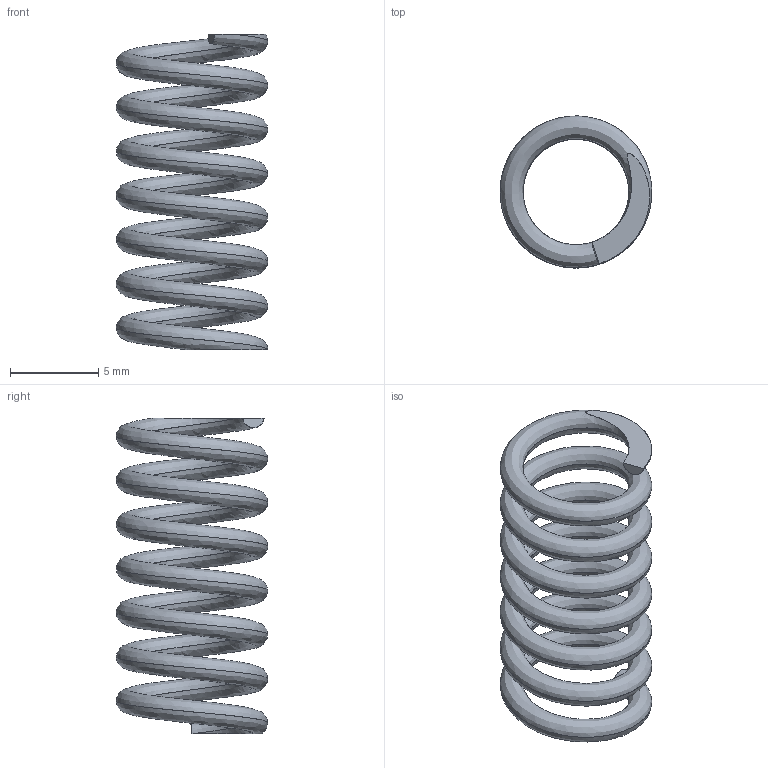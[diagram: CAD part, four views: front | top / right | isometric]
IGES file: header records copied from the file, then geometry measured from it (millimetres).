
Start section: SolidWorks IGES file using analytic representation for surfaces
Global section: file name: C:\Users\cbrechard\Desktop\GP 9\09.230.00.IGS; native system: SolidWorks 2008; preprocessor: SolidWorks 2008; author: cbrechard; date: 130305.170849; units: millimetre
Bounding box: 8.6 x 8.6 x 17.9 mm (x, y, z)
Surface area: 675.5 mm2 (no closed solid volume)
Topology: 0 solids, 0 shells, 6 faces, 128 edges, 128 vertices
Faces by surface type: bspline 6
